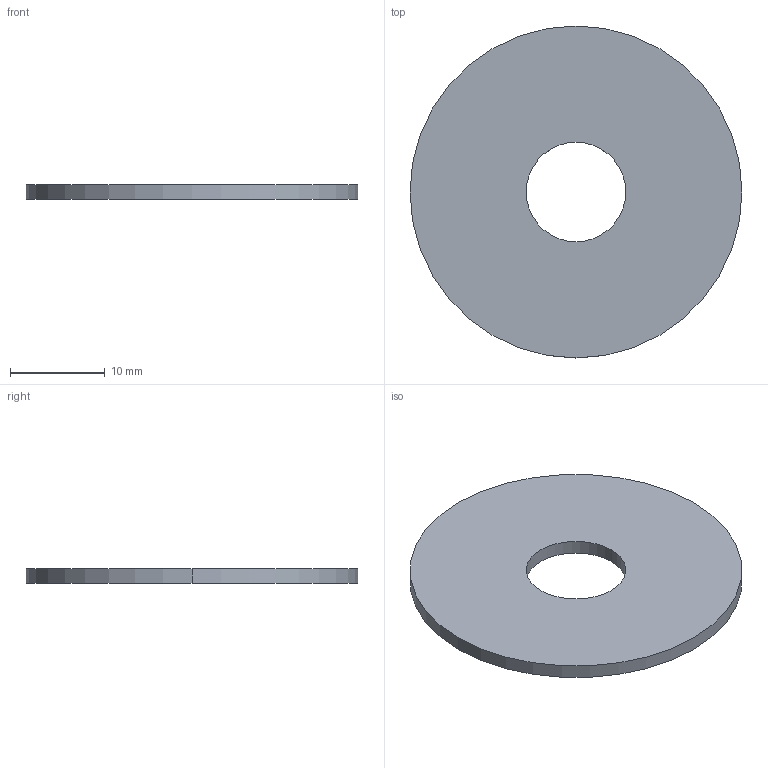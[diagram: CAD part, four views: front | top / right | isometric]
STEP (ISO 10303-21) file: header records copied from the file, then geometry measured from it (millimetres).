
FILE_DESCRIPTION (( 'STEP AP203' ), '1' );
FILE_NAME ('P0333.100-035-A4.step', '2018-12-17T19:09:11', ( '' ), ( '' ), 'SwSTEP 2.0', 'SolidWorks 2017', '' );
FILE_SCHEMA (( 'CONFIG_CONTROL_DESIGN' ));
Length unit declared in the file: millimetre
Products named in the file (1): P0333.100-035-A4
Bounding box: 35 x 35 x 1.5 mm (x, y, z)
Volume: 1313.3 mm3; surface area: 1965.5 mm2
Topology: 1 solids, 1 shells, 6 faces, 12 edges, 8 vertices
Faces by surface type: cylinder 4, plane 2
Entity records: 245 total; most frequent: DIRECTION 34, CARTESIAN_POINT 27, ORIENTED_EDGE 24, AXIS2_PLACEMENT_3D 15, EDGE_CURVE 12, VERTEX_POINT 8, CIRCLE 8, PERSON_AND_ORGANIZATION 8
